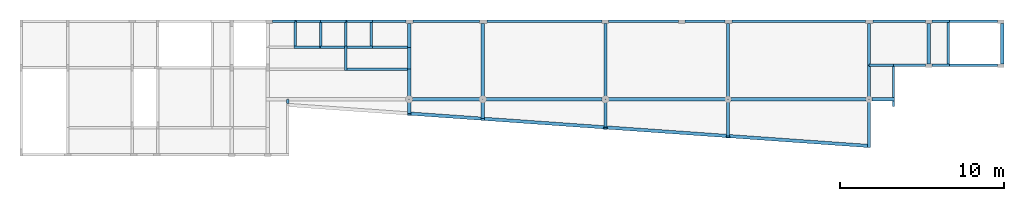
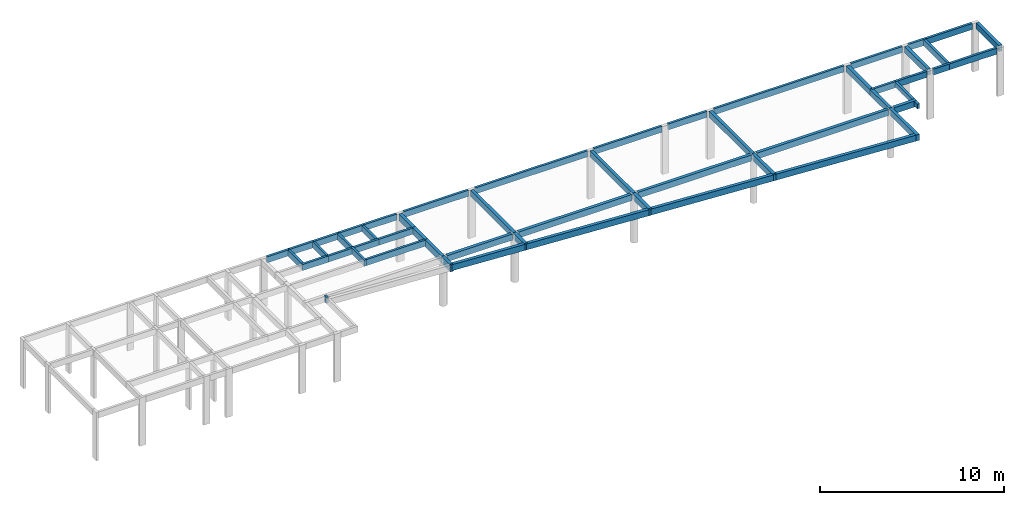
# One storey, part 2 of 3: 59 beams.
"""IFC2X3 building model written with IfcOpenShell, lengths in centimetres."""

from ifc_helpers import new_model, si_unit, derived_unit, frame, origin, origin_with_axes, origin_2d_with_axis, place, context, project, spatial, rectangle, extrude, clip, halfspace, material, element, save


model = new_model("IFC2X3")

# Units and contexts
model_context = context("Model", 3, precision=1e-05, world=origin_with_axes(), identifier="Body")
ifc_project = project(units=[si_unit("LENGTHUNIT", "METRE", prefix="CENTI"), si_unit("VOLUMEUNIT", "CUBIC_METRE"), si_unit("AREAUNIT", "SQUARE_METRE"), si_unit("POWERUNIT", "WATT"), si_unit("LUMINOUSFLUXUNIT", "LUMEN"), si_unit("ELECTRICCURRENTUNIT", "AMPERE"), si_unit("PRESSUREUNIT", "PASCAL", prefix="KILO"), si_unit("MASSUNIT", "GRAM", prefix="KILO"), si_unit("PLANEANGLEUNIT", "RADIAN"), derived_unit("VOLUMETRICFLOWRATEUNIT", [(si_unit("LENGTHUNIT", "METRE"), 3), (si_unit("TIMEUNIT", "SECOND"), -1)])], contexts=[model_context])

# Site, building, storey
site_placement = place(None, origin_with_axes())
site = spatial("IfcSite", under=ifc_project, at=site_placement)
building_placement = place(site_placement, origin())
building = spatial("IfcBuilding", under=site, at=building_placement)
placement_1 = place(building_placement, origin_with_axes())
placement_2 = place(placement_1, frame((0.0, 0.0, 80.0), z_axis=(0.0, 0.0, 1.0), x_axis=(1.0, 0.0, 0.0)))
storey_placement = place(placement_2, frame((0.0, 0.0, 320.0), z_axis=(0.0, 0.0, 1.0), x_axis=(1.0, 0.0, 0.0)))
storey = spatial("IfcBuildingStorey", under=building, at=storey_placement, Name="03. Pavimento Superior", CompositionType="ELEMENT", Elevation=400.0)

# Beams
ifc_material = material(Name="Concreto")
beam_1_placement = place(storey_placement, frame((512.79, -281.61, 0.0), z_axis=(0.0, 0.0, 1.0), x_axis=(1.0, 0.0, 0.0)))
element("IfcBeam", 1, at=beam_1_placement, inside=storey, material=ifc_material, Name="V1", context=model_context, shape_type="SolidModel", body=[
    extrude(rectangle(XDim=15.0, YDim=40.0, at=origin_2d_with_axis()), frame((-105.75, 0.0, -20.0), z_axis=(1.0, 0.0, 0.0), x_axis=(0.0, -1.0, 0.0)), (0.0, 0.0, 1.0), 211.5),
])
beam_2_placement = place(storey_placement, frame((333.29, -281.61, 0.0), z_axis=(0.0, 0.0, 1.0), x_axis=(1.0, 0.0, 0.0)))
element("IfcBeam", 2, at=beam_2_placement, inside=storey, material=ifc_material, Name="V1", context=model_context, shape_type="SolidModel", body=[
    extrude(rectangle(XDim=15.0, YDim=40.0, at=origin_2d_with_axis()), frame((-81.25, 0.0, -20.0), z_axis=(1.0, 0.0, 0.0), x_axis=(0.0, -1.0, 0.0)), (0.0, 0.0, 1.0), 162.5),
])
for number, where, z_axis, x_axis, name in (
    (3, (174.54, -281.61, 0.0), (0.0, 0.0, 1.0), (1.0, 0.0, 0.0), "V1"),
    (4, (19.54, -281.61, 0.0), (0.0, 0.0, 1.0), (1.0, 0.0, 0.0), "V1"),
):
    element("IfcBeam", number, at=place(storey_placement, frame(where, z_axis=z_axis, x_axis=x_axis)), inside=storey, material=ifc_material, Name=name, context=model_context, shape_type="SolidModel", body=[
        extrude(rectangle(XDim=15.0, YDim=40.0, at=origin_2d_with_axis()), frame((-77.5, 0.0, -20.0), z_axis=(1.0, 0.0, 0.0), x_axis=(0.0, -1.0, 0.0)), (0.0, 0.0, 1.0), 155.0),
    ])
beam_3_placement = place(storey_placement, frame((-126.71, -281.61, 0.0), z_axis=(0.0, 0.0, 1.0), x_axis=(1.0, 0.0, 0.0)))
element("IfcBeam", 5, at=beam_3_placement, inside=storey, material=ifc_material, Name="V1", context=model_context, shape_type="SolidModel", body=[
    extrude(rectangle(XDim=15.0, YDim=40.0, at=origin_2d_with_axis()), frame((-68.75, 0.0, -20.0), z_axis=(1.0, 0.0, 0.0), x_axis=(0.0, -1.0, 0.0)), (0.0, 0.0, 1.0), 137.5),
])
beam_4_placement = place(storey_placement, frame((863.67, -861.81, 0.0), z_axis=(0.0, 0.0, 1.0), x_axis=(1.0, 0.0, 0.0)))
element("IfcBeam", 6, at=beam_4_placement, inside=storey, material=ifc_material, Name="V10", context=model_context, shape_type="SolidModel", body=[
    extrude(rectangle(XDim=20.0, YDim=40.0, at=origin_2d_with_axis()), frame((-225.0, 15.89, -20.0), z_axis=(0.997515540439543, -0.070446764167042, 0.0), x_axis=(-0.070446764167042, -0.997515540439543, 0.0)), (0.0, 0.0, 1.0), 451.1207913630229),
])
beam_5_placement = place(storey_placement, frame((3014.180064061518, -1013.7376565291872, 0.0), z_axis=(0.0, 0.0, 1.0), x_axis=(1.0, 0.0, 0.0)))
element("IfcBeam", 7, at=beam_5_placement, inside=storey, material=ifc_material, Name="V10", context=model_context, shape_type="Clipping", body=[
    clip(extrude(rectangle(XDim=20.0, YDim=40.0, at=origin_2d_with_axis()), frame((-425.5100640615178, 30.097656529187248, -20.0), z_axis=(0.997515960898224, -0.070440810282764, 0.0), x_axis=(0.070440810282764, 0.997515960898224, 0.0)), (0.0, 0.0, 1.0), 854.5516841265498), halfspace(frame((426.16160628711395, -20.01927845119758, -40.0), z_axis=(-1.0, -0.002636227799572, 0.0), x_axis=(0.0, 0.0, 0.073070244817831)), True)),
])
beam_6_placement = place(storey_placement, frame((2213.67, -957.155, 0.0), z_axis=(0.0, 0.0, 1.0), x_axis=(1.0, 0.0, 0.0)))
element("IfcBeam", 8, at=beam_6_placement, inside=storey, material=ifc_material, Name="V10", context=model_context, shape_type="SolidModel", body=[
    extrude(rectangle(XDim=20.0, YDim=40.0, at=origin_2d_with_axis()), frame((-375.0, 26.485, -20.0), z_axis=(0.997515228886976, -0.070451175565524, 0.0), x_axis=(0.070451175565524, 0.997515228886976, 0.0)), (0.0, 0.0, 1.0), 751.8682204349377),
])
beam_7_placement = place(storey_placement, frame((1463.67, -904.185, 0.0), z_axis=(0.0, 0.0, 1.0), x_axis=(1.0, 0.0, 0.0)))
element("IfcBeam", 9, at=beam_7_placement, inside=storey, material=ifc_material, Name="V10", context=model_context, shape_type="SolidModel", body=[
    extrude(rectangle(XDim=20.0, YDim=40.0, at=origin_2d_with_axis()), frame((-375.0, 26.485, -20.0), z_axis=(0.997515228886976, -0.070451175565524, 0.0), x_axis=(-0.070451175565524, -0.997515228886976, 0.0)), (0.0, 0.0, 1.0), 751.8682204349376),
])
beam_8_placement = place(storey_placement, frame((863.67, -758.96, 0.0), z_axis=(0.0, 0.0, 1.0), x_axis=(1.0, 0.0, 0.0)))
element("IfcBeam", 10, at=beam_8_placement, inside=storey, material=ifc_material, Name="V11", context=model_context, shape_type="SolidModel", body=[
    extrude(rectangle(XDim=20.0, YDim=40.0, at=origin_2d_with_axis()), frame((-204.8443556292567, 0.0, -20.0), z_axis=(1.0, 0.0, 0.0), x_axis=(0.0, -1.0, 0.0)), (0.0, 0.0, 1.0), 409.6887112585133),
])
beam_9_placement = place(storey_placement, frame((1463.67, -758.96, 0.0), z_axis=(0.0, 0.0, 1.0), x_axis=(1.0, 0.0, 0.0)))
element("IfcBeam", 11, at=beam_9_placement, inside=storey, material=ifc_material, Name="V12", context=model_context, shape_type="SolidModel", body=[
    extrude(rectangle(XDim=20.0, YDim=40.0, at=origin_2d_with_axis()), frame((-354.84435562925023, 0.0, -20.0), z_axis=(1.0, 0.0, 0.0), x_axis=(0.0, -1.0, 0.0)), (0.0, 0.0, 1.0), 709.6887112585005),
])
beam_10_placement = place(storey_placement, frame((2215.08756814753, -758.96, 0.0), z_axis=(0.0, 0.0, 1.0), x_axis=(1.0, 0.0, 0.0)))
element("IfcBeam", 12, at=beam_10_placement, inside=storey, material=ifc_material, Name="V13", context=model_context, shape_type="SolidModel", body=[
    extrude(rectangle(XDim=20.0, YDim=40.0, at=origin_2d_with_axis()), frame((-356.2619237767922, 0.0, -20.0), z_axis=(1.0, 0.0, 0.0), x_axis=(0.0, 1.0, 0.0)), (0.0, 0.0, 1.0), 712.5238475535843),
])
beam_11_placement = place(storey_placement, frame((3019.17, -758.96, 0.0), z_axis=(0.0, 0.0, 1.0), x_axis=(1.0, 0.0, 0.0)))
element("IfcBeam", 13, at=beam_11_placement, inside=storey, material=ifc_material, Name="V14", context=model_context, shape_type="SolidModel", body=[
    extrude(rectangle(XDim=20.0, YDim=40.0, at=origin_2d_with_axis()), frame((-413.17949192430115, 0.0, -20.0), z_axis=(1.0, 0.0, 0.0), x_axis=(0.0, 1.0, 0.0)), (0.0, 0.0, 1.0), 826.3589838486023),
])
beam_12_placement = place(storey_placement, frame((3537.265254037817, -758.96, 0.0), z_axis=(0.0, 0.0, 1.0), x_axis=(1.0, 0.0, 0.0)))
element("IfcBeam", 14, at=beam_12_placement, inside=storey, material=ifc_material, Name="V15", context=model_context, shape_type="SolidModel", body=[
    extrude(rectangle(XDim=20.0, YDim=40.0, at=origin_2d_with_axis()), frame((-70.2747459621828, 0.0, -20.0), z_axis=(1.0, 0.0, 0.0), x_axis=(0.0, 1.0, 0.0)), (0.0, 0.0, 1.0), 140.5494919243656),
])
beam_13_placement = place(storey_placement, frame((3021.54, -281.61, 0.0), z_axis=(0.0, 0.0, 1.0), x_axis=(1.0, 0.0, 0.0)))
element("IfcBeam", 15, at=beam_13_placement, inside=storey, material=ifc_material, Name="V2", context=model_context, shape_type="SolidModel", body=[
    extrude(rectangle(XDim=15.0, YDim=40.0, at=origin_2d_with_axis()), frame((-408.0, 0.0, -20.0), z_axis=(1.0, 0.0, 0.0), x_axis=(0.0, 1.0, 0.0)), (0.0, 0.0, 1.0), 816.0),
])
beam_14_placement = place(storey_placement, frame((2447.04, -281.61, 0.0), z_axis=(0.0, 0.0, 1.0), x_axis=(1.0, 0.0, 0.0)))
element("IfcBeam", 16, at=beam_14_placement, inside=storey, material=ifc_material, Name="V2", context=model_context, shape_type="SolidModel", body=[
    extrude(rectangle(XDim=15.0, YDim=40.0, at=origin_2d_with_axis()), frame((-121.5, 0.0, -20.0), z_axis=(1.0, 0.0, 0.0), x_axis=(0.0, 1.0, 0.0)), (0.0, 0.0, 1.0), 243.0),
])
beam_15_placement = place(storey_placement, frame((1466.04, -281.61, 0.0), z_axis=(0.0, 0.0, 1.0), x_axis=(1.0, 0.0, 0.0)))
element("IfcBeam", 17, at=beam_15_placement, inside=storey, material=ifc_material, Name="V2", context=model_context, shape_type="SolidModel", body=[
    extrude(rectangle(XDim=15.0, YDim=40.0, at=origin_2d_with_axis()), frame((-352.5, 0.0, -20.0), z_axis=(1.0, 0.0, 0.0), x_axis=(0.0, 1.0, 0.0)), (0.0, 0.0, 1.0), 705.0),
])
beam_16_placement = place(storey_placement, frame((866.04, -281.61, 0.0), z_axis=(0.0, 0.0, 1.0), x_axis=(1.0, 0.0, 0.0)))
element("IfcBeam", 18, at=beam_16_placement, inside=storey, material=ifc_material, Name="V2", context=model_context, shape_type="SolidModel", body=[
    extrude(rectangle(XDim=15.0, YDim=40.0, at=origin_2d_with_axis()), frame((-202.5, 0.0, -20.0), z_axis=(1.0, 0.0, 0.0), x_axis=(0.0, 1.0, 0.0)), (0.0, 0.0, 1.0), 405.0),
])
beam_17_placement = place(storey_placement, frame((2072.04, -281.61, 0.0), z_axis=(0.0, 0.0, 1.0), x_axis=(1.0, 0.0, 0.0)))
element("IfcBeam", 19, at=beam_17_placement, inside=storey, material=ifc_material, Name="V2", context=model_context, shape_type="SolidModel", body=[
    extrude(rectangle(XDim=15.0, YDim=40.0, at=origin_2d_with_axis()), frame((-213.5, 0.0, -20.0), z_axis=(1.0, 0.0, 0.0), x_axis=(0.0, 1.0, 0.0)), (0.0, 0.0, 1.0), 427.0),
])
beam_18_placement = place(storey_placement, frame((-102.70454474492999, -771.4498578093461, 0.0), z_axis=(0.0, 0.0, 1.0), x_axis=(1.0, 0.0, 0.0)))
element("IfcBeam", 20, at=beam_18_placement, inside=storey, material=ifc_material, Name="V27", context=model_context, shape_type="Clipping", body=[
    clip(extrude(rectangle(XDim=15.0, YDim=40.0, at=origin_2d_with_axis()), frame((0.255455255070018, -12.792913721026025, -20.0), z_axis=(-0.020203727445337, 0.999795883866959, 0.0), x_axis=(0.999795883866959, 0.020203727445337, 0.0)), (0.0, 0.0, 1.0), 25.287933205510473), halfspace(frame((-7.270577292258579, -11.580446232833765, 0.0), z_axis=(0.070438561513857, 0.997516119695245, 0.0), x_axis=(0.0, 0.0, 0.090577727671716)), True)),
])
beam_19_placement = place(storey_placement, frame((-57.96, -357.86, 0.0), z_axis=(0.0, 0.0, 1.0), x_axis=(1.0, 0.0, 0.0)))
element("IfcBeam", 21, at=beam_19_placement, inside=storey, material=ifc_material, Name="V28", context=model_context, shape_type="SolidModel", body=[
    extrude(rectangle(XDim=15.0, YDim=40.0, at=origin_2d_with_axis()), frame((0.0, -76.25, -20.0), z_axis=(0.0, 1.0, 0.0), x_axis=(1.0, 0.0, 0.0)), (0.0, 0.0, 1.0), 152.5),
])
beam_20_placement = place(storey_placement, frame((97.04, -361.61, 0.0), z_axis=(0.0, 0.0, 1.0), x_axis=(1.0, 0.0, 0.0)))
element("IfcBeam", 22, at=beam_20_placement, inside=storey, material=ifc_material, Name="V29", context=model_context, shape_type="SolidModel", body=[
    extrude(rectangle(XDim=15.0, YDim=40.0, at=origin_2d_with_axis()), frame((0.0, -80.0, -20.0), z_axis=(0.0, 1.0, 0.0), x_axis=(1.0, 0.0, 0.0)), (0.0, 0.0, 1.0), 160.0),
])
beam_21_placement = place(storey_placement, frame((4085.79, -281.61, 0.0), z_axis=(0.0, 0.0, 1.0), x_axis=(1.0, 0.0, 0.0)))
element("IfcBeam", 23, at=beam_21_placement, inside=storey, material=ifc_material, Name="V3", context=model_context, shape_type="SolidModel", body=[
    extrude(rectangle(XDim=15.0, YDim=40.0, at=origin_2d_with_axis()), frame((-149.75, 0.0, -20.0), z_axis=(1.0, 0.0, 0.0), x_axis=(0.0, 1.0, 0.0)), (0.0, 0.0, 1.0), 299.5),
])
beam_22_placement = place(storey_placement, frame((3889.79, -281.61, 0.0), z_axis=(0.0, 0.0, 1.0), x_axis=(1.0, 0.0, 0.0)))
element("IfcBeam", 24, at=beam_22_placement, inside=storey, material=ifc_material, Name="V3", context=model_context, shape_type="SolidModel", body=[
    extrude(rectangle(XDim=15.0, YDim=40.0, at=origin_2d_with_axis()), frame((-53.75, 0.0, -20.0), z_axis=(1.0, 0.0, 0.0), x_axis=(0.0, 1.0, 0.0)), (0.0, 0.0, 1.0), 107.5),
])
beam_23_placement = place(storey_placement, frame((3635.29, -281.61, 0.0), z_axis=(0.0, 0.0, 1.0), x_axis=(1.0, 0.0, 0.0)))
element("IfcBeam", 25, at=beam_23_placement, inside=storey, material=ifc_material, Name="V3", context=model_context, shape_type="SolidModel", body=[
    extrude(rectangle(XDim=15.0, YDim=40.0, at=origin_2d_with_axis()), frame((-160.75, 0.0, -20.0), z_axis=(1.0, 0.0, 0.0), x_axis=(0.0, 1.0, 0.0)), (0.0, 0.0, 1.0), 321.5),
])
beam_24_placement = place(storey_placement, frame((252.04, -361.61, 0.0), z_axis=(0.0, 0.0, 1.0), x_axis=(1.0, 0.0, 0.0)))
element("IfcBeam", 26, at=beam_24_placement, inside=storey, material=ifc_material, Name="V30", context=model_context, shape_type="SolidModel", body=[
    extrude(rectangle(XDim=15.0, YDim=40.0, at=origin_2d_with_axis()), frame((0.0, -80.0, -20.0), z_axis=(0.0, 1.0, 0.0), x_axis=(1.0, 0.0, 0.0)), (0.0, 0.0, 1.0), 160.0),
])
beam_25_placement = place(storey_placement, frame((252.04, -507.86, 0.0), z_axis=(0.0, 0.0, 1.0), x_axis=(1.0, 0.0, 0.0)))
element("IfcBeam", 27, at=beam_25_placement, inside=storey, material=ifc_material, Name="V30", context=model_context, shape_type="SolidModel", body=[
    extrude(rectangle(XDim=15.0, YDim=40.0, at=origin_2d_with_axis()), frame((0.0, -73.75, -20.0), z_axis=(0.0, 1.0, 0.0), x_axis=(1.0, 0.0, 0.0)), (0.0, 0.0, 1.0), 147.5),
])
beam_26_placement = place(storey_placement, frame((407.04, -361.61, 0.0), z_axis=(0.0, 0.0, 1.0), x_axis=(1.0, 0.0, 0.0)))
element("IfcBeam", 28, at=beam_26_placement, inside=storey, material=ifc_material, Name="V31", context=model_context, shape_type="SolidModel", body=[
    extrude(rectangle(XDim=15.0, YDim=40.0, at=origin_2d_with_axis()), frame((0.0, -72.5, -20.0), z_axis=(0.0, 1.0, 0.0), x_axis=(1.0, 0.0, 0.0)), (0.0, 0.0, 1.0), 145.0),
])
beam_27_placement = place(storey_placement, frame((638.67, -666.535, 0.0), z_axis=(0.0, 0.0, 1.0), x_axis=(1.0, 0.0, 0.0)))
element("IfcBeam", 29, at=beam_27_placement, inside=storey, material=ifc_material, Name="V32", context=model_context, shape_type="SolidModel", body=[
    extrude(rectangle(XDim=20.0, YDim=45.0, at=origin_2d_with_axis()), frame((0.0, -92.425, -22.5), z_axis=(0.0, 1.0, 0.0), x_axis=(1.0, 0.0, 0.0)), (0.0, 0.0, 1.0), 184.85),
])
beam_28_placement = place(storey_placement, frame((638.67, -507.86, 0.0), z_axis=(0.0, 0.0, 1.0), x_axis=(1.0, 0.0, 0.0)))
element("IfcBeam", 30, at=beam_28_placement, inside=storey, material=ifc_material, Name="V32", context=model_context, shape_type="SolidModel", body=[
    extrude(rectangle(XDim=20.0, YDim=45.0, at=origin_2d_with_axis()), frame((0.0, -66.25, -22.5), z_axis=(0.0, 1.0, 0.0), x_axis=(1.0, 0.0, 0.0)), (0.0, 0.0, 1.0), 132.5),
])
beam_29_placement = place(storey_placement, frame((638.67, -850.94, 0.0), z_axis=(0.0, 0.0, 1.0), x_axis=(1.0, 0.0, 0.0)))
element("IfcBeam", 31, at=beam_29_placement, inside=storey, material=ifc_material, Name="V32", context=model_context, shape_type="SolidModel", body=[
    extrude(rectangle(XDim=20.0, YDim=45.0, at=origin_2d_with_axis()), frame((0.0, -5.02, -22.5), z_axis=(0.0, 1.0, 0.0), x_axis=(1.0, 0.0, 0.0)), (0.0, 0.0, 1.0), 10.04),
])
beam_30_placement = place(storey_placement, frame((638.67, -802.44, 0.0), z_axis=(0.0, 0.0, 1.0), x_axis=(1.0, 0.0, 0.0)))
element("IfcBeam", 32, at=beam_30_placement, inside=storey, material=ifc_material, Name="V32", context=model_context, shape_type="SolidModel", body=[
    extrude(rectangle(XDim=20.0, YDim=45.0, at=origin_2d_with_axis()), frame((0.0, -43.48, -22.5), z_axis=(0.0, 1.0, 0.0), x_axis=(1.0, 0.0, 0.0)), (0.0, 0.0, 1.0), 86.96),
])
beam_31_placement = place(storey_placement, frame((638.67, -367.86, 0.0), z_axis=(0.0, 0.0, 1.0), x_axis=(1.0, 0.0, 0.0)))
element("IfcBeam", 33, at=beam_31_placement, inside=storey, material=ifc_material, Name="V32", context=model_context, shape_type="SolidModel", body=[
    extrude(rectangle(XDim=20.0, YDim=45.0, at=origin_2d_with_axis()), frame((0.0, -73.75, -22.5), z_axis=(0.0, 1.0, 0.0), x_axis=(1.0, 0.0, 0.0)), (0.0, 0.0, 1.0), 147.5),
])
beam_32_placement = place(storey_placement, frame((1088.67, -818.33, 0.0), z_axis=(0.0, 0.0, 1.0), x_axis=(1.0, 0.0, 0.0)))
element("IfcBeam", 34, at=beam_32_placement, inside=storey, material=ifc_material, Name="V33", context=model_context, shape_type="SolidModel", body=[
    extrude(rectangle(XDim=20.0, YDim=40.0, at=origin_2d_with_axis()), frame((0.0, -59.37, -20.0), z_axis=(0.0, 1.0, 0.0), x_axis=(1.0, 0.0, 0.0)), (0.0, 0.0, 1.0), 118.74),
])
beam_33_placement = place(storey_placement, frame((1088.67, -526.535, 0.0), z_axis=(0.0, 0.0, 1.0), x_axis=(1.0, 0.0, 0.0)))
element("IfcBeam", 35, at=beam_33_placement, inside=storey, material=ifc_material, Name="V33", context=model_context, shape_type="SolidModel", body=[
    extrude(rectangle(XDim=20.0, YDim=40.0, at=origin_2d_with_axis()), frame((0.0, -232.425, -20.0), z_axis=(0.0, 1.0, 0.0), x_axis=(1.0, 0.0, 0.0)), (0.0, 0.0, 1.0), 464.85),
])
beam_34_placement = place(storey_placement, frame((1088.67, -882.72, 0.0), z_axis=(0.0, 0.0, 1.0), x_axis=(1.0, 0.0, 0.0)))
element("IfcBeam", 36, at=beam_34_placement, inside=storey, material=ifc_material, Name="V33", context=model_context, shape_type="SolidModel", body=[
    extrude(rectangle(XDim=20.0, YDim=40.0, at=origin_2d_with_axis()), frame((0.0, -5.02, -20.0), z_axis=(0.0, 1.0, 0.0), x_axis=(1.0, 0.0, 0.0)), (0.0, 0.0, 1.0), 10.04),
])
beam_35_placement = place(storey_placement, frame((1838.67, -526.535, 0.0), z_axis=(0.0, 0.0, 1.0), x_axis=(1.0, 0.0, 0.0)))
element("IfcBeam", 37, at=beam_35_placement, inside=storey, material=ifc_material, Name="V34", context=model_context, shape_type="SolidModel", body=[
    extrude(rectangle(XDim=20.0, YDim=40.0, at=origin_2d_with_axis()), frame((0.0, -232.425, -20.0), z_axis=(0.0, 1.0, 0.0), x_axis=(1.0, 0.0, 0.0)), (0.0, 0.0, 1.0), 464.85),
])
beam_36_placement = place(storey_placement, frame((1838.67, -935.685, 0.0), z_axis=(0.0, 0.0, 1.0), x_axis=(1.0, 0.0, 0.0)))
element("IfcBeam", 38, at=beam_36_placement, inside=storey, material=ifc_material, Name="V34", context=model_context, shape_type="SolidModel", body=[
    extrude(rectangle(XDim=20.0, YDim=40.0, at=origin_2d_with_axis()), frame((0.0, -5.015, -20.0), z_axis=(0.0, 1.0, 0.0), x_axis=(1.0, 0.0, 0.0)), (0.0, 0.0, 1.0), 10.03),
])
beam_37_placement = place(storey_placement, frame((1838.67, -844.815, 0.0), z_axis=(0.0, 0.0, 1.0), x_axis=(1.0, 0.0, 0.0)))
element("IfcBeam", 39, at=beam_37_placement, inside=storey, material=ifc_material, Name="V34", context=model_context, shape_type="SolidModel", body=[
    extrude(rectangle(XDim=20.0, YDim=40.0, at=origin_2d_with_axis()), frame((0.0, -85.855, -20.0), z_axis=(0.0, 1.0, 0.0), x_axis=(1.0, 0.0, 0.0)), (0.0, 0.0, 1.0), 171.71),
])
beam_38_placement = place(storey_placement, frame((2588.67, -526.535, 0.0), z_axis=(0.0, 0.0, 1.0), x_axis=(1.0, 0.0, 0.0)))
element("IfcBeam", 40, at=beam_38_placement, inside=storey, material=ifc_material, Name="V35", context=model_context, shape_type="SolidModel", body=[
    extrude(rectangle(XDim=20.0, YDim=40.0, at=origin_2d_with_axis()), frame((0.0, -232.425, -20.0), z_axis=(0.0, 1.0, 0.0), x_axis=(1.0, 0.0, 0.0)), (0.0, 0.0, 1.0), 464.85),
])
beam_39_placement = place(storey_placement, frame((2588.67, -988.805, 0.0), z_axis=(0.0, 0.0, 1.0), x_axis=(1.0, 0.0, 0.0)))
element("IfcBeam", 41, at=beam_39_placement, inside=storey, material=ifc_material, Name="V35", context=model_context, shape_type="SolidModel", body=[
    extrude(rectangle(XDim=20.0, YDim=40.0, at=origin_2d_with_axis()), frame((0.0, -5.165, -20.0), z_axis=(0.0, 1.0, 0.0), x_axis=(1.0, 0.0, 0.0)), (0.0, 0.0, 1.0), 10.33),
])
beam_40_placement = place(storey_placement, frame((2588.67, -871.3, 0.0), z_axis=(0.0, 0.0, 1.0), x_axis=(1.0, 0.0, 0.0)))
element("IfcBeam", 42, at=beam_40_placement, inside=storey, material=ifc_material, Name="V35", context=model_context, shape_type="SolidModel", body=[
    extrude(rectangle(XDim=20.0, YDim=40.0, at=origin_2d_with_axis()), frame((0.0, -112.34, -20.0), z_axis=(0.0, 1.0, 0.0), x_axis=(1.0, 0.0, 0.0)), (0.0, 0.0, 1.0), 224.68),
])
beam_41_placement = place(storey_placement, frame((3449.63320249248, -655.2847824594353, 0.0), z_axis=(0.0, 0.0, 1.0), x_axis=(1.0, 0.0, 0.0)))
element("IfcBeam", 43, at=beam_41_placement, inside=storey, material=ifc_material, Name="V36", context=model_context, shape_type="SolidModel", body=[
    extrude(rectangle(XDim=20.0, YDim=40.0, at=origin_2d_with_axis()), frame((0.033202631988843, -103.67521869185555, -20.0), z_axis=(-0.000320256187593, 1.0, 0.0), x_axis=(1.0, 0.000320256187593, 0.0)), (0.0, 0.0, 1.0), 207.3504480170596),
])
beam_42_placement = place(storey_placement, frame((3450.007820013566, -907.0784208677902, 0.0), z_axis=(0.0, 0.0, 1.0), x_axis=(1.0, 0.0, 0.0)))
element("IfcBeam", 44, at=beam_42_placement, inside=storey, material=ifc_material, Name="V36", context=model_context, shape_type="Clipping", body=[
    clip(extrude(rectangle(XDim=20.0, YDim=40.0, at=origin_2d_with_axis()), frame((0.390544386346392, -148.1710064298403, -20.0), z_axis=(-0.002636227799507, 1.0, 0.0), x_axis=(1.0, 0.002636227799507, 0.0)), (0.0, 0.0, 1.0), 296.2903178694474), halfspace(frame((-9.613283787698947, -146.73205179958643, 0.0), z_axis=(0.07044081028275, 0.997515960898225, 0.0), x_axis=(0.0, 0.0, 0.073070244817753)), True)),
])
beam_43_placement = place(storey_placement, frame((3449.57, -422.86021811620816, 0.0), z_axis=(0.0, 0.0, 1.0), x_axis=(1.0, 0.0, 0.0)))
element("IfcBeam", 45, at=beam_43_placement, inside=storey, material=ifc_material, Name="V36", context=model_context, shape_type="SolidModel", body=[
    extrude(rectangle(XDim=20.0, YDim=40.0, at=origin_2d_with_axis()), frame((0.03, -128.75021811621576, -20.0), z_axis=(-0.000233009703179, 1.0, 0.0), x_axis=(1.0, 0.000233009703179, 0.0)), (0.0, 0.0, 1.0), 257.5004432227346),
])
beam_44_placement = place(storey_placement, frame((3600.04, -655.285, 0.0), z_axis=(0.0, 0.0, 1.0), x_axis=(1.0, 0.0, 0.0)))
element("IfcBeam", 46, at=beam_44_placement, inside=storey, material=ifc_material, Name="V37", context=model_context, shape_type="SolidModel", body=[
    extrude(rectangle(XDim=15.0, YDim=30.0, at=origin_2d_with_axis()), frame((0.0, -103.675, -15.0), z_axis=(0.0, 1.0, 0.0), x_axis=(1.0, 0.0, 0.0)), (0.0, 0.0, 1.0), 207.35),
])
beam_45_placement = place(storey_placement, frame((3600.04, -786.535, 0.0), z_axis=(0.0, 0.0, 1.0), x_axis=(1.0, 0.0, 0.0)))
element("IfcBeam", 47, at=beam_45_placement, inside=storey, material=ifc_material, Name="V37", context=model_context, shape_type="SolidModel", body=[
    extrude(rectangle(XDim=15.0, YDim=30.0, at=origin_2d_with_axis()), frame((0.0, -17.575, -15.0), z_axis=(0.0, 1.0, 0.0), x_axis=(1.0, 0.0, 0.0)), (0.0, 0.0, 1.0), 35.15),
])
beam_46_placement = place(storey_placement, frame((3816.04, -419.11, 0.0), z_axis=(0.0, 0.0, 1.0), x_axis=(1.0, 0.0, 0.0)))
element("IfcBeam", 48, at=beam_46_placement, inside=storey, material=ifc_material, Name="V38", context=model_context, shape_type="SolidModel", body=[
    extrude(rectangle(XDim=20.0, YDim=40.0, at=origin_2d_with_axis()), frame((0.0, -125.0, -20.0), z_axis=(0.0, 1.0, 0.0), x_axis=(1.0, 0.0, 0.0)), (0.0, 0.0, 1.0), 250.0),
])
beam_47_placement = place(storey_placement, frame((3936.04, -416.3833299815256, 0.0), z_axis=(0.0, 0.0, 1.0), x_axis=(1.0, 0.0, 0.0)))
element("IfcBeam", 49, at=beam_47_placement, inside=storey, material=ifc_material, Name="V39", context=model_context, shape_type="Clipping", body=[
    clip(extrude(rectangle(XDim=15.0, YDim=40.0, at=origin_2d_with_axis()), frame((0.0, -127.27332998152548, -20.0), z_axis=(0.0, 1.0, 0.0), x_axis=(1.0, 0.0, 0.0)), (0.0, 0.0, 1.0), 254.54665996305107), halfspace(frame((-7.5, -127.27332998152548, 0.0), z_axis=(-0.004899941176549, 1.0, 0.0), x_axis=(0.0, 0.0, -0.004899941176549)), True)),
])
beam_48_placement = place(storey_placement, frame((522.855, -441.61, 0.0), z_axis=(0.0, 0.0, 1.0), x_axis=(1.0, 0.0, 0.0)))
element("IfcBeam", 50, at=beam_48_placement, inside=storey, material=ifc_material, Name="V4", context=model_context, shape_type="SolidModel", body=[
    extrude(rectangle(XDim=15.0, YDim=40.0, at=origin_2d_with_axis()), frame((-115.815, 0.0, -20.0), z_axis=(1.0, 0.0, 0.0), x_axis=(0.0, -1.0, 0.0)), (0.0, 0.0, 1.0), 231.63),
])
beam_49_placement = place(storey_placement, frame((333.29, -441.61, 0.0), z_axis=(0.0, 0.0, 1.0), x_axis=(1.0, 0.0, 0.0)))
element("IfcBeam", 51, at=beam_49_placement, inside=storey, material=ifc_material, Name="V4", context=model_context, shape_type="SolidModel", body=[
    extrude(rectangle(XDim=15.0, YDim=40.0, at=origin_2d_with_axis()), frame((-81.25, 0.0, -20.0), z_axis=(1.0, 0.0, 0.0), x_axis=(0.0, -1.0, 0.0)), (0.0, 0.0, 1.0), 162.5),
])
beam_50_placement = place(storey_placement, frame((170.79, -441.61, 0.0), z_axis=(0.0, 0.0, 1.0), x_axis=(1.0, 0.0, 0.0)))
element("IfcBeam", 52, at=beam_50_placement, inside=storey, material=ifc_material, Name="V4", context=model_context, shape_type="SolidModel", body=[
    extrude(rectangle(XDim=15.0, YDim=40.0, at=origin_2d_with_axis()), frame((-73.75, 0.0, -20.0), z_axis=(1.0, 0.0, 0.0), x_axis=(0.0, -1.0, 0.0)), (0.0, 0.0, 1.0), 147.5),
])
beam_51_placement = place(storey_placement, frame((15.79, -441.61, 0.0), z_axis=(0.0, 0.0, 1.0), x_axis=(1.0, 0.0, 0.0)))
element("IfcBeam", 53, at=beam_51_placement, inside=storey, material=ifc_material, Name="V4", context=model_context, shape_type="SolidModel", body=[
    extrude(rectangle(XDim=15.0, YDim=40.0, at=origin_2d_with_axis()), frame((-81.25, 0.0, -20.0), z_axis=(1.0, 0.0, 0.0), x_axis=(0.0, -1.0, 0.0)), (0.0, 0.0, 1.0), 162.5),
])
beam_52_placement = place(storey_placement, frame((4265.54, -419.11, 0.0), z_axis=(0.0, 0.0, 1.0), x_axis=(1.0, 0.0, 0.0)))
element("IfcBeam", 54, at=beam_52_placement, inside=storey, material=ifc_material, Name="V40", context=model_context, shape_type="SolidModel", body=[
    extrude(rectangle(XDim=20.0, YDim=40.0, at=origin_2d_with_axis()), frame((0.0, -125.0, -20.0), z_axis=(0.0, 1.0, 0.0), x_axis=(1.0, 0.0, 0.0)), (0.0, 0.0, 1.0), 250.0),
])
beam_53_placement = place(storey_placement, frame((449.105, -574.11, 0.0), z_axis=(0.0, 0.0, 1.0), x_axis=(1.0, 0.0, 0.0)))
element("IfcBeam", 55, at=beam_53_placement, inside=storey, material=ifc_material, Name="V6", context=model_context, shape_type="SolidModel", body=[
    extrude(rectangle(XDim=15.0, YDim=40.0, at=origin_2d_with_axis()), frame((-189.565, 0.0, -20.0), z_axis=(1.0, 0.0, 0.0), x_axis=(0.0, -1.0, 0.0)), (0.0, 0.0, 1.0), 379.13),
])
beam_54_placement = place(storey_placement, frame((3524.82, -551.61, 0.0), z_axis=(0.0, 0.0, 1.0), x_axis=(1.0, 0.0, 0.0)))
element("IfcBeam", 56, at=beam_54_placement, inside=storey, material=ifc_material, Name="V7", context=model_context, shape_type="SolidModel", body=[
    extrude(rectangle(XDim=15.0, YDim=40.0, at=origin_2d_with_axis()), frame((-75.22, 0.0, -20.0), z_axis=(1.0, 0.0, 0.0), x_axis=(0.0, 1.0, 0.0)), (0.0, 0.0, 1.0), 150.44),
])
beam_55_placement = place(storey_placement, frame((3698.04, -551.61, 0.0), z_axis=(0.0, 0.0, 1.0), x_axis=(1.0, 0.0, 0.0)))
element("IfcBeam", 57, at=beam_55_placement, inside=storey, material=ifc_material, Name="V7", context=model_context, shape_type="SolidModel", body=[
    extrude(rectangle(XDim=15.0, YDim=40.0, at=origin_2d_with_axis()), frame((-98.0, 0.0, -20.0), z_axis=(1.0, 0.0, 0.0), x_axis=(0.0, 1.0, 0.0)), (0.0, 0.0, 1.0), 196.0),
])
beam_56_placement = place(storey_placement, frame((4085.7961352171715, -551.365010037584, 0.0), z_axis=(0.0, 0.0, 1.0), x_axis=(1.0, 0.0, 0.0)))
element("IfcBeam", 58, at=beam_56_placement, inside=storey, material=ifc_material, Name="V8", context=model_context, shape_type="SolidModel", body=[
    extrude(rectangle(XDim=15.0, YDim=40.0, at=origin_2d_with_axis()), frame((-149.75613521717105, 0.245010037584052, -20.0), z_axis=(1.0, -0.001636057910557, 0.0), x_axis=(0.001636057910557, 1.0, 0.0)), (0.0, 0.0, 1.0), 299.51267128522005),
])
beam_57_placement = place(storey_placement, frame((3889.753250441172, -551.346625, 0.0), z_axis=(0.0, 0.0, 1.0), x_axis=(1.0, 0.0, 0.0)))
element("IfcBeam", 59, at=beam_57_placement, inside=storey, material=ifc_material, Name="V8", context=model_context, shape_type="Clipping", body=[
    clip(extrude(rectangle(XDim=15.0, YDim=40.0, at=origin_2d_with_axis()), frame((-53.75, -0.263555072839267, -20.0), z_axis=(1.0, 0.004899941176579, 0.0), x_axis=(-0.004899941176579, 1.0, 0.0)), (0.0, 0.0, 1.0), 107.57479052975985), halfspace(frame((53.78674955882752, 7.763465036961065, -40.0), z_axis=(-1.0, 0.0, 0.0), x_axis=(0.0, 0.0, -0.004899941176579)), True)),
])

save(model, "model.ifc")
